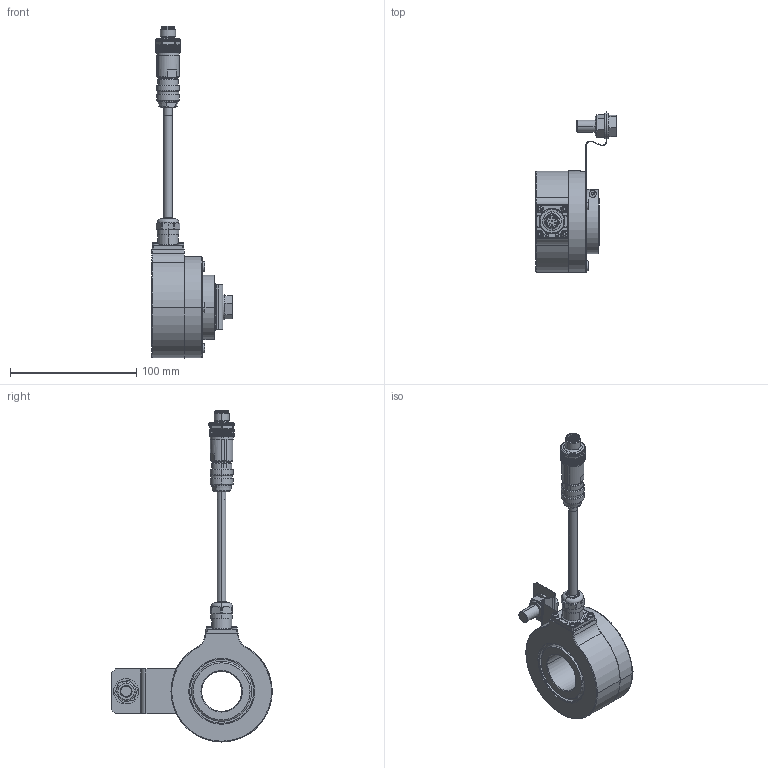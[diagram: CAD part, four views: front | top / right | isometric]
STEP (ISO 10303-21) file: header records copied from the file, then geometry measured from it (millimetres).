
FILE_DESCRIPTION (( 'STEP AP203' ), '1' );
FILE_NAME ('K80I.OXX.XXXXX.XH1489A.6XR12.XXXX.step', '2025-12-09T07:58:33', ( '' ), ( '' ), 'SwSTEP 2.0', 'SolidWorks 2021', '' );
FILE_SCHEMA (( 'CONFIG_CONTROL_DESIGN' ));
Length unit declared in the file: millimetre
Products named in the file (1): K80I.OXX.XXXXX.XH1489A.6XR12.XXXX
Bounding box: 63.95 x 127.03 x 262.56 mm (x, y, z)
Volume: 215814.8 mm3; surface area: 77635.7 mm2
Topology: 18 solids, 20 shells, 1702 faces, 4219 edges, 2592 vertices
Faces by surface type: cylinder 638, plane 624, cone 313, bspline 60, torus 35, sphere 32
Entity records: 54250 total; most frequent: CARTESIAN_POINT 14720, ORIENTED_EDGE 8358, DIRECTION 8219, EDGE_CURVE 4179, AXIS2_PLACEMENT_3D 3259, VERTEX_POINT 2576, EDGE_LOOP 1815, ADVANCED_FACE 1702
